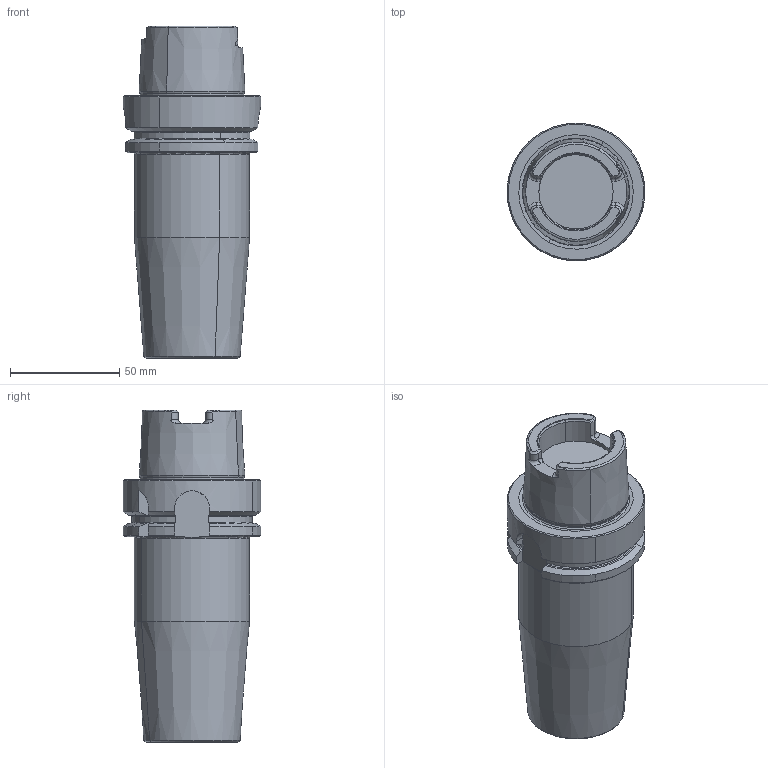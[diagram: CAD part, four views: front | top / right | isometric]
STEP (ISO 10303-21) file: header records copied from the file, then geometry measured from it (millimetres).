
FILE_DESCRIPTION(('CATIA V5 STEP','CAx-IF Rec.Pracs.--- Model Styling and Organization---1.2---2011-12-15'),'2;1');
FILE_NAME('\\nas01\drv1\utils\eitdev\rte\eit\transmagicconvert\db\out\4503908 L.stp','2014-04-02T06:46:26+00:00',('none'),('none'),'CATIA Version 5 Release 21 SP 5 (IN-10)','CATIA V5 STEP AP214','none');
FILE_SCHEMA(('AUTOMOTIVE_DESIGN { 1 0 10303 214 1 1 1 1 }'));
Length unit declared in the file: millimetre
Products named in the file (1): 60974037_0 Holder-Tool HSK A 63 SRKIN 32X120
Bounding box: 62.99 x 63 x 152 mm (x, y, z)
Volume: 301987.1 mm3; surface area: 31967.6 mm2
Topology: 1 solids, 1 shells, 135 faces, 355 edges, 224 vertices
Faces by surface type: plane 42, cone 33, cylinder 32, torus 28
Entity records: 4266 total; most frequent: CARTESIAN_POINT 1321, ORIENTED_EDGE 710, DIRECTION 432, EDGE_CURVE 355, AXIS2_PLACEMENT_3D 231, VERTEX_POINT 224, CIRCLE 151, EDGE_LOOP 137
